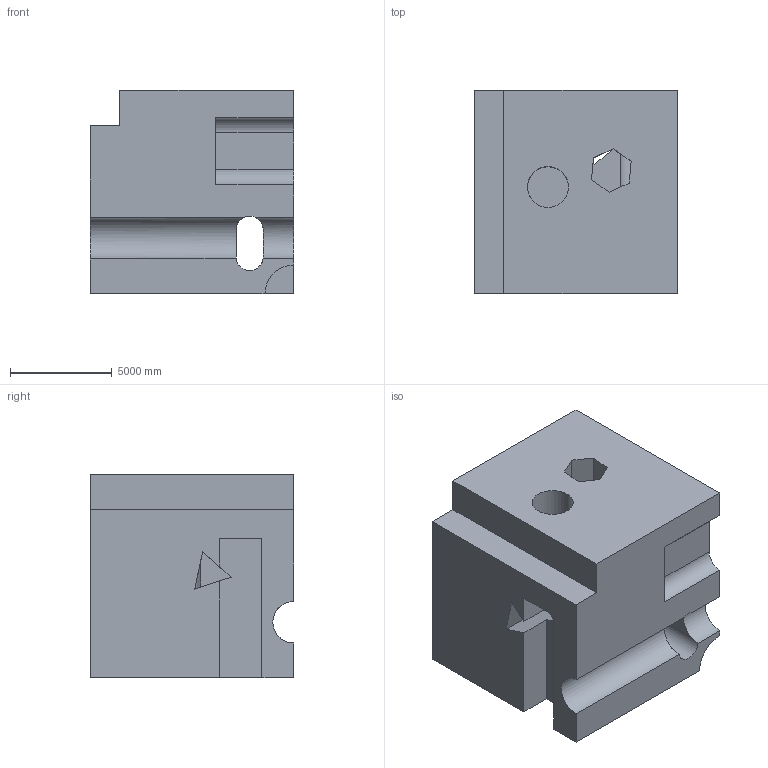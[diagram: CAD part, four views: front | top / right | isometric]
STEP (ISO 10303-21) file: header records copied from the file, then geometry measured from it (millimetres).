
FILE_DESCRIPTION (( 'STEP AP203' ), '1' );
FILE_NAME ('952.STEP', '2022-07-29T14:37:40', ( 'user' ), ( '' ), 'SwSTEP 2.0', 'SolidWorks 2021', '' );
FILE_SCHEMA (( 'CONFIG_CONTROL_DESIGN' ));
Length unit declared in the file: centimetre
Products named in the file (1): 952
Bounding box: 10000 x 10000 x 10000 mm (x, y, z)
Volume: 823744981049.6 mm3; surface area: 820968053.2 mm2
Topology: 1 solids, 1 shells, 48 faces, 145 edges, 96 vertices
Faces by surface type: plane 38, cylinder 10
Entity records: 1858 total; most frequent: CARTESIAN_POINT 465, ORIENTED_EDGE 290, DIRECTION 254, EDGE_CURVE 145, LINE 116, VECTOR 116, VERTEX_POINT 96, AXIS2_PLACEMENT_3D 69
